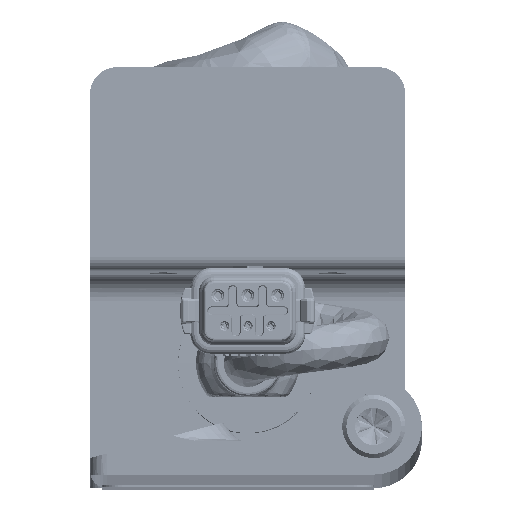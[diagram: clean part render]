
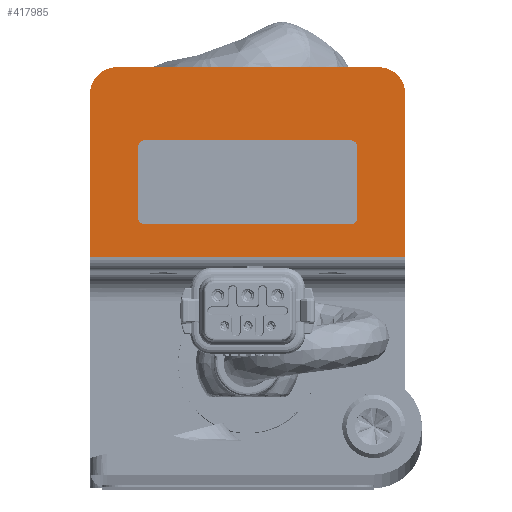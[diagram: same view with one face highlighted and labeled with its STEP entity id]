
A CAD part, top view. The second image highlights one B-rep face of the part: STEP entity #417985.
In plain terms, the highlighted planar face has unit normal (0, 0, 1) as drawn and (0, 0, -1) by its records, which use the part's own axes.
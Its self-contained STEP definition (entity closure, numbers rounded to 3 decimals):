
#261 = EDGE_CURVE ( 'NONE', #571788, #205904, #119948, .T. ) ;
#12988 = EDGE_CURVE ( 'NONE', #643221, #293392, #330772, .T. ) ;
#24257 = CARTESIAN_POINT ( 'NONE',  ( 23.75, -0.362, -21.255 ) ) ;
#38889 = CIRCLE ( 'NONE', #580579, 4. ) ;
#59950 = CARTESIAN_POINT ( 'NONE',  ( 23.75, 28.289, -21.255 ) ) ;
#67854 = VERTEX_POINT ( 'NONE', #411331 ) ;
#87015 = CARTESIAN_POINT ( 'NONE',  ( 23.75, 25.239, -21.255 ) ) ;
#101999 = AXIS2_PLACEMENT_3D ( 'NONE', #426635, #267603, #487863 ) ;
#119948 = LINE ( 'NONE', #123526, #712250 ) ;
#123526 = CARTESIAN_POINT ( 'NONE',  ( 23.75, -3., -21.255 ) ) ;
#125743 = LINE ( 'NONE', #407257, #187054 ) ;
#126134 = DIRECTION ( 'NONE',  ( 1., 0., 0. ) ) ;
#179867 = DIRECTION ( 'NONE',  ( 0., 1., 0. ) ) ;
#187054 = VECTOR ( 'NONE', #179867, 1000. ) ;
#190748 = ORIENTED_EDGE ( 'NONE', *, *, #218246, .T. ) ;
#205904 = VERTEX_POINT ( 'NONE', #401017 ) ;
#208182 = CARTESIAN_POINT ( 'NONE',  ( 23.75, -0.362, -21.255 ) ) ;
#212770 = EDGE_CURVE ( 'NONE', #571788, #373838, #468313, .T. ) ;
#218246 = EDGE_CURVE ( 'NONE', #643221, #205904, #540558, .T. ) ;
#242513 = ORIENTED_EDGE ( 'NONE', *, *, #261, .F. ) ;
#243466 = EDGE_CURVE ( 'NONE', #67854, #293392, #38889, .T. ) ;
#246326 = VECTOR ( 'NONE', #388555, 1000. ) ;
#255680 = ORIENTED_EDGE ( 'NONE', *, *, #587541, .T. ) ;
#267603 = DIRECTION ( 'NONE',  ( 0., 0., -1. ) ) ;
#293392 = VERTEX_POINT ( 'NONE', #450334 ) ;
#303305 = ORIENTED_EDGE ( 'NONE', *, *, #243466, .T. ) ;
#330772 = LINE ( 'NONE', #59950, #246326 ) ;
#373838 = VERTEX_POINT ( 'NONE', #646940 ) ;
#388555 = DIRECTION ( 'NONE',  ( -1., 0., 0. ) ) ;
#401017 = CARTESIAN_POINT ( 'NONE',  ( 23.75, 24.289, -21.255 ) ) ;
#402870 = EDGE_LOOP ( 'NONE', ( #242513, #423607, #255680, #303305, #623789, #190748 ) ) ;
#407257 = CARTESIAN_POINT ( 'NONE',  ( -23.75, 25.239, -21.255 ) ) ;
#411331 = CARTESIAN_POINT ( 'NONE',  ( -23.75, 24.289, -21.255 ) ) ;
#417985 = ADVANCED_FACE ( 'NONE', ( #700522 ), #541581, .F. ) ;
#423607 = ORIENTED_EDGE ( 'NONE', *, *, #212770, .T. ) ;
#426635 = CARTESIAN_POINT ( 'NONE',  ( 19.75, 24.289, -21.255 ) ) ;
#450334 = CARTESIAN_POINT ( 'NONE',  ( -19.75, 28.289, -21.255 ) ) ;
#468313 = LINE ( 'NONE', #24257, #595756 ) ;
#487863 = DIRECTION ( 'NONE',  ( 1., 0., 0. ) ) ;
#540558 = CIRCLE ( 'NONE', #101999, 4. ) ;
#541581 = PLANE ( 'NONE',  #639477 ) ;
#555759 = CARTESIAN_POINT ( 'NONE',  ( 19.75, 28.289, -21.255 ) ) ;
#556812 = DIRECTION ( 'NONE',  ( 0., 1., 0. ) ) ;
#571788 = VERTEX_POINT ( 'NONE', #208182 ) ;
#580579 = AXIS2_PLACEMENT_3D ( 'NONE', #667787, #617135, #126134 ) ;
#585066 = DIRECTION ( 'NONE',  ( 1., 0., 0. ) ) ;
#587541 = EDGE_CURVE ( 'NONE', #373838, #67854, #125743, .T. ) ;
#595756 = VECTOR ( 'NONE', #699108, 1000. ) ;
#617135 = DIRECTION ( 'NONE',  ( 0., 0., -1. ) ) ;
#623789 = ORIENTED_EDGE ( 'NONE', *, *, #12988, .F. ) ;
#639477 = AXIS2_PLACEMENT_3D ( 'NONE', #87015, #642816, #585066 ) ;
#642816 = DIRECTION ( 'NONE',  ( 0., 0., 1. ) ) ;
#643221 = VERTEX_POINT ( 'NONE', #555759 ) ;
#646940 = CARTESIAN_POINT ( 'NONE',  ( -23.75, -0.362, -21.255 ) ) ;
#667787 = CARTESIAN_POINT ( 'NONE',  ( -19.75, 24.289, -21.255 ) ) ;
#699108 = DIRECTION ( 'NONE',  ( -1., 0., 0. ) ) ;
#700522 = FACE_OUTER_BOUND ( 'NONE', #402870, .T. ) ;
#712250 = VECTOR ( 'NONE', #556812, 1000. ) ;
